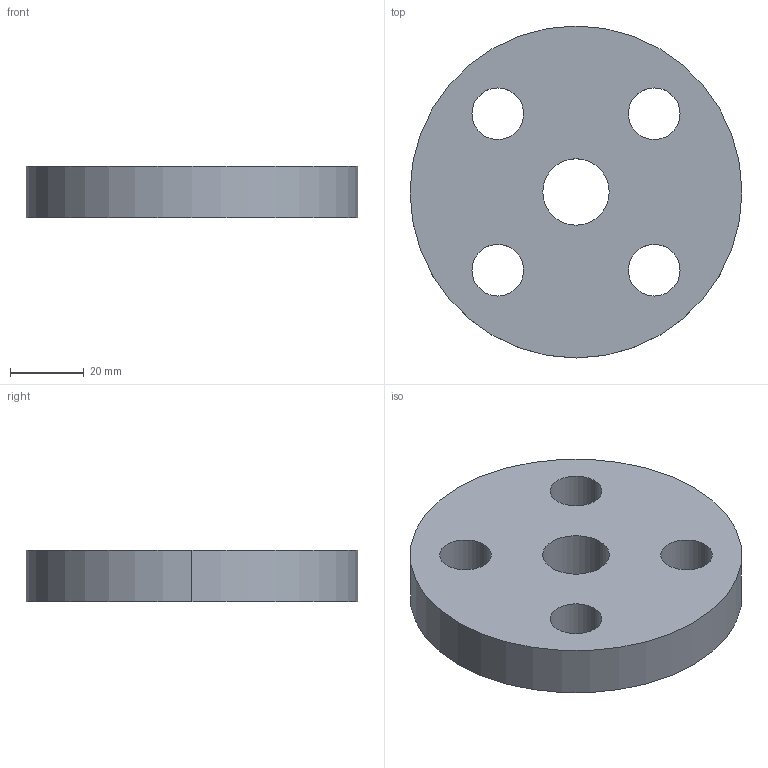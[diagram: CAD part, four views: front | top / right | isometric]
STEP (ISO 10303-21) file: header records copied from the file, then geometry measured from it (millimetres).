
FILE_DESCRIPTION (( 'STEP AP214' ), '1' );
FILE_NAME ('PN40 DN10 Type 01 - Type A Face.STEP', '2018-12-29T05:27:48', ( '' ), ( '' ), 'SwSTEP 2.0', 'SolidWorks 2019', '' );
FILE_SCHEMA (( 'AUTOMOTIVE_DESIGN' ));
Length unit declared in the file: millimetre
Products named in the file (1): PN40 DN10 Type 01 - Type A Face
Bounding box: 90 x 90 x 14 mm (x, y, z)
Volume: 76881.1 mm3; surface area: 18196.1 mm2
Topology: 1 solids, 1 shells, 14 faces, 36 edges, 24 vertices
Faces by surface type: cylinder 12, plane 2
Entity records: 498 total; most frequent: DIRECTION 90, CARTESIAN_POINT 75, ORIENTED_EDGE 72, AXIS2_PLACEMENT_3D 39, EDGE_CURVE 36, VERTEX_POINT 24, CIRCLE 24, EDGE_LOOP 24
